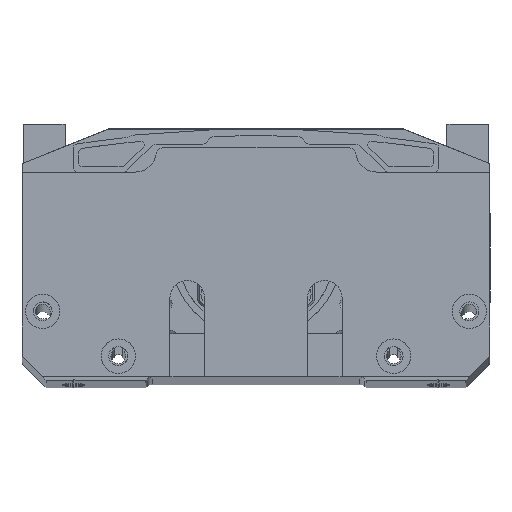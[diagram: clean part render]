
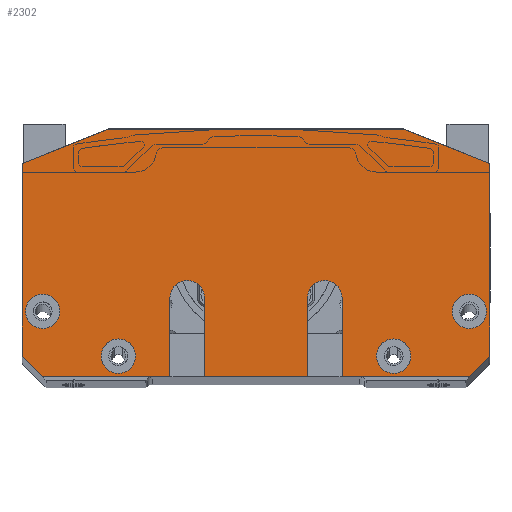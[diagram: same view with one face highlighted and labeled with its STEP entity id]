
A CAD part, top view. The second image highlights one B-rep face of the part: STEP entity #2302.
In plain terms, the highlighted planar face has unit normal (0, 0, 1).
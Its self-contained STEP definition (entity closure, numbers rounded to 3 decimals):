
#2302=ADVANCED_FACE('9',(#3391,#3392,#3393,#3394,#3395),#2971,.T.);
#2971=PLANE('',#19401);
#3391=FACE_BOUND('',#4419,.T.);
#3392=FACE_BOUND('',#4420,.T.);
#3393=FACE_BOUND('',#4421,.T.);
#3394=FACE_BOUND('',#4422,.T.);
#3395=FACE_BOUND('',#4423,.T.);
#4419=EDGE_LOOP('',(#8972,#8973,#8974,#8975,#8976,#8977,#8978,#8979,#8980,
#8981,#8982,#8983,#8984,#8985,#8986,#8987));
#4420=EDGE_LOOP('',(#8988));
#4421=EDGE_LOOP('',(#8989));
#4422=EDGE_LOOP('',(#8990));
#4423=EDGE_LOOP('',(#8991));
#5623=CIRCLE('',#19360,5.);
#5625=CIRCLE('',#19365,5.);
#5643=CIRCLE('',#19397,5.);
#5644=CIRCLE('',#19398,5.);
#5645=CIRCLE('',#19399,5.);
#5646=CIRCLE('',#19400,5.);
#8972=ORIENTED_EDGE('',*,*,#14738,.T.);
#8973=ORIENTED_EDGE('',*,*,#14740,.T.);
#8974=ORIENTED_EDGE('',*,*,#14734,.T.);
#8975=ORIENTED_EDGE('',*,*,#13840,.F.);
#8976=ORIENTED_EDGE('',*,*,#14746,.T.);
#8977=ORIENTED_EDGE('',*,*,#14748,.T.);
#8978=ORIENTED_EDGE('',*,*,#14742,.T.);
#8979=ORIENTED_EDGE('',*,*,#13837,.F.);
#8980=ORIENTED_EDGE('',*,*,#13854,.T.);
#8981=ORIENTED_EDGE('',*,*,#13880,.F.);
#8982=ORIENTED_EDGE('',*,*,#14757,.T.);
#8983=ORIENTED_EDGE('',*,*,#14779,.F.);
#8984=ORIENTED_EDGE('',*,*,#14760,.T.);
#8985=ORIENTED_EDGE('',*,*,#13782,.F.);
#8986=ORIENTED_EDGE('',*,*,#13825,.T.);
#8987=ORIENTED_EDGE('',*,*,#13843,.F.);
#8988=ORIENTED_EDGE('',*,*,#14780,.F.);
#8989=ORIENTED_EDGE('',*,*,#14781,.F.);
#8990=ORIENTED_EDGE('',*,*,#14782,.F.);
#8991=ORIENTED_EDGE('',*,*,#14783,.F.);
#11803=VERTEX_POINT('',#27867);
#11804=VERTEX_POINT('',#27869);
#11832=VERTEX_POINT('',#27948);
#11838=VERTEX_POINT('',#27969);
#11839=VERTEX_POINT('',#27971);
#11840=VERTEX_POINT('',#27974);
#11841=VERTEX_POINT('',#27976);
#11842=VERTEX_POINT('',#27979);
#11849=VERTEX_POINT('',#28000);
#11871=VERTEX_POINT('',#28050);
#12398=VERTEX_POINT('',#31595);
#12400=VERTEX_POINT('',#31601);
#12402=VERTEX_POINT('',#31610);
#12404=VERTEX_POINT('',#31616);
#12413=VERTEX_POINT('',#31641);
#12415=VERTEX_POINT('',#31647);
#12425=VERTEX_POINT('',#31687);
#12426=VERTEX_POINT('',#31689);
#12427=VERTEX_POINT('',#31691);
#12428=VERTEX_POINT('',#31693);
#13782=EDGE_CURVE('',#11803,#11804,#15959,.T.);
#13825=EDGE_CURVE('',#11803,#11832,#15992,.T.);
#13837=EDGE_CURVE('',#11838,#11839,#16003,.T.);
#13840=EDGE_CURVE('',#11840,#11841,#16006,.T.);
#13843=EDGE_CURVE('',#11842,#11832,#16009,.T.);
#13854=EDGE_CURVE('',#11838,#11849,#16019,.T.);
#13880=EDGE_CURVE('',#11871,#11849,#16043,.T.);
#14734=EDGE_CURVE('',#12398,#11841,#16458,.T.);
#14738=EDGE_CURVE('',#11842,#12400,#16462,.T.);
#14740=EDGE_CURVE('',#12400,#12398,#5623,.T.);
#14742=EDGE_CURVE('',#12402,#11839,#16464,.T.);
#14746=EDGE_CURVE('',#11840,#12404,#16468,.T.);
#14748=EDGE_CURVE('',#12404,#12402,#5625,.T.);
#14757=EDGE_CURVE('',#11871,#12413,#16473,.T.);
#14760=EDGE_CURVE('',#12415,#11804,#16476,.T.);
#14779=EDGE_CURVE('',#12415,#12413,#16482,.T.);
#14780=EDGE_CURVE('',#12425,#12425,#5643,.T.);
#14781=EDGE_CURVE('',#12426,#12426,#5644,.T.);
#14782=EDGE_CURVE('',#12427,#12427,#5645,.T.);
#14783=EDGE_CURVE('',#12428,#12428,#5646,.T.);
#15959=LINE('',#27868,#17283);
#15992=LINE('',#27949,#17316);
#16003=LINE('',#27970,#17327);
#16006=LINE('',#27975,#17330);
#16009=LINE('',#27980,#17333);
#16019=LINE('',#28001,#17343);
#16043=LINE('',#28051,#17367);
#16458=LINE('',#31594,#17782);
#16462=LINE('',#31602,#17786);
#16464=LINE('',#31609,#17788);
#16468=LINE('',#31617,#17792);
#16473=LINE('',#31640,#17797);
#16476=LINE('',#31646,#17800);
#16482=LINE('',#31685,#17806);
#17283=VECTOR('',#21361,1.);
#17316=VECTOR('',#21432,1.);
#17327=VECTOR('',#21451,1.);
#17330=VECTOR('',#21454,1.);
#17333=VECTOR('',#21457,1.);
#17343=VECTOR('',#21475,1.);
#17367=VECTOR('',#21507,1.);
#17782=VECTOR('',#23254,1.);
#17786=VECTOR('',#23260,1.);
#17788=VECTOR('',#23270,1.);
#17792=VECTOR('',#23276,1.);
#17797=VECTOR('',#23301,1.);
#17800=VECTOR('',#23306,1.);
#17806=VECTOR('',#23358,1.);
#19360=AXIS2_PLACEMENT_3D('',#31605,#23265,#23266);
#19365=AXIS2_PLACEMENT_3D('',#31620,#23281,#23282);
#19397=AXIS2_PLACEMENT_3D('',#31686,#23359,#23360);
#19398=AXIS2_PLACEMENT_3D('',#31688,#23361,#23362);
#19399=AXIS2_PLACEMENT_3D('',#31690,#23363,#23364);
#19400=AXIS2_PLACEMENT_3D('',#31692,#23365,#23366);
#19401=AXIS2_PLACEMENT_3D('',#31694,#23367,#23368);
#21361=DIRECTION('',(0.,1.,0.));
#21432=DIRECTION('',(0.707,-0.707,0.));
#21451=DIRECTION('',(-1.,0.,0.));
#21454=DIRECTION('',(-1.,0.,0.));
#21457=DIRECTION('',(-1.,0.,0.));
#21475=DIRECTION('',(0.707,0.707,0.));
#21507=DIRECTION('',(0.,-1.,0.));
#23254=DIRECTION('',(0.,-1.,0.));
#23260=DIRECTION('',(0.,1.,0.));
#23265=DIRECTION('',(0.,0.,-1.));
#23266=DIRECTION('',(1.,0.,0.));
#23270=DIRECTION('',(0.,-1.,0.));
#23276=DIRECTION('',(0.,1.,0.));
#23281=DIRECTION('',(0.,0.,-1.));
#23282=DIRECTION('',(-1.,0.,0.));
#23301=DIRECTION('',(-0.928,0.371,0.));
#23306=DIRECTION('',(-0.928,-0.371,0.));
#23358=DIRECTION('',(1.,0.,0.));
#23359=DIRECTION('',(0.,0.,1.));
#23360=DIRECTION('',(1.,0.,0.));
#23361=DIRECTION('',(0.,0.,1.));
#23362=DIRECTION('',(1.,0.,0.));
#23363=DIRECTION('',(0.,0.,1.));
#23364=DIRECTION('',(1.,0.,0.));
#23365=DIRECTION('',(0.,0.,1.));
#23366=DIRECTION('',(1.,0.,0.));
#23367=DIRECTION('',(0.,0.,1.));
#23368=DIRECTION('',(-1.,0.,0.));
#27867=CARTESIAN_POINT('',(-68.,6.,382.));
#27868=CARTESIAN_POINT('',(-68.,0.,382.));
#27869=CARTESIAN_POINT('',(-68.,62.,382.));
#27948=CARTESIAN_POINT('',(-62.,0.,382.));
#27949=CARTESIAN_POINT('',(-49.,-13.,382.));
#27969=CARTESIAN_POINT('',(62.,0.,382.));
#27970=CARTESIAN_POINT('',(68.,0.,382.));
#27971=CARTESIAN_POINT('',(25.,0.,382.));
#27974=CARTESIAN_POINT('',(15.,0.,382.));
#27975=CARTESIAN_POINT('',(68.,0.,382.));
#27976=CARTESIAN_POINT('',(-15.,0.,382.));
#27979=CARTESIAN_POINT('',(-25.,0.,382.));
#27980=CARTESIAN_POINT('',(68.,0.,382.));
#28000=CARTESIAN_POINT('',(68.,6.,382.));
#28001=CARTESIAN_POINT('',(49.,-13.,382.));
#28050=CARTESIAN_POINT('',(68.,62.,382.));
#28051=CARTESIAN_POINT('',(68.,0.,382.));
#31594=CARTESIAN_POINT('',(-15.,23.,382.));
#31595=CARTESIAN_POINT('',(-15.,23.,382.));
#31601=CARTESIAN_POINT('',(-25.,23.,382.));
#31602=CARTESIAN_POINT('',(-25.,23.,382.));
#31605=CARTESIAN_POINT('',(-20.,23.,382.));
#31609=CARTESIAN_POINT('',(25.,23.,382.));
#31610=CARTESIAN_POINT('',(25.,23.,382.));
#31616=CARTESIAN_POINT('',(15.,23.,382.));
#31617=CARTESIAN_POINT('',(15.,23.,382.));
#31620=CARTESIAN_POINT('',(20.,23.,382.));
#31640=CARTESIAN_POINT('',(18.345,81.862,382.));
#31641=CARTESIAN_POINT('',(43.,72.,382.));
#31646=CARTESIAN_POINT('',(-18.345,81.862,382.));
#31647=CARTESIAN_POINT('',(-43.,72.,382.));
#31685=CARTESIAN_POINT('',(68.,72.,382.));
#31686=CARTESIAN_POINT('',(-62.,19.,382.));
#31687=CARTESIAN_POINT('',(-57.,19.,382.));
#31688=CARTESIAN_POINT('',(62.,19.,382.));
#31689=CARTESIAN_POINT('',(67.,19.,382.));
#31690=CARTESIAN_POINT('',(-40.,6.,382.));
#31691=CARTESIAN_POINT('',(-35.,6.,382.));
#31692=CARTESIAN_POINT('',(40.,6.,382.));
#31693=CARTESIAN_POINT('',(45.,6.,382.));
#31694=CARTESIAN_POINT('',(0.,36.,382.));
